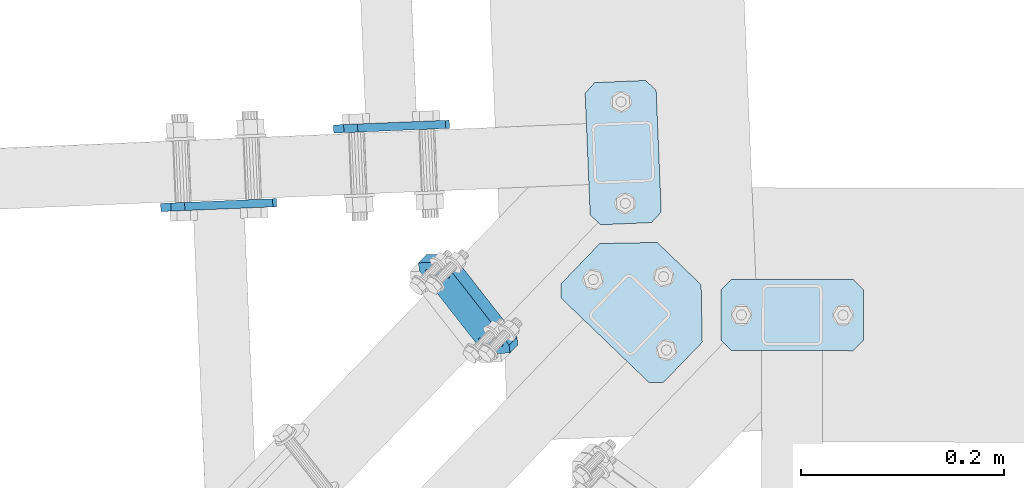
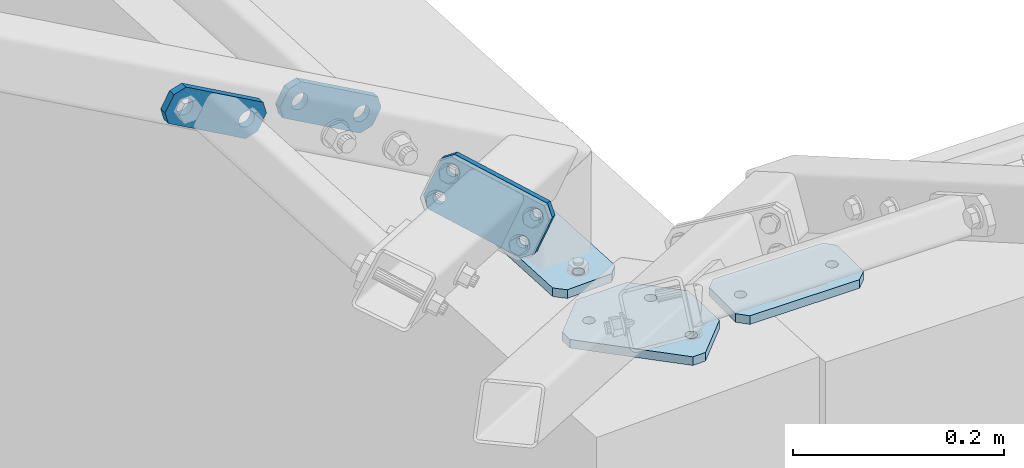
# One storey, part 31 of 288: 6 plates, 39 openings.
"""IFC2X3 building model written with IfcOpenShell, lengths in millimetres."""

from ifc_helpers import new_model, entity, si_unit, converted_unit, point, frame, frame_2d, origin, origin_with_axes, origin_2d_with_axis, place, context, project, spatial, polyline, circle_curve, line_curve, trimmed, segment, composite_curve, circle, outline, extrude, material, layer, layer_set, element, save


model = new_model("IFC2X3")

# Units and contexts
model_context = context("Model", 3, precision=1e-09, world=origin_with_axes())
ifc_project = project(units=[si_unit("LENGTHUNIT", "METRE", prefix="MILLI"), si_unit("AREAUNIT", "SQUARE_METRE"), si_unit("VOLUMEUNIT", "CUBIC_METRE"), converted_unit("PLANEANGLEUNIT", "DEGREE", entity("IfcPlaneAngleMeasure", 0.01745329), si_unit("PLANEANGLEUNIT", "RADIAN"), dimensions=[0, 0, 0, 0, 0, 0, 0])], contexts=[model_context])

# Site, building, storey
site_placement = place(None, origin_with_axes())
site = spatial("IfcSite", under=ifc_project, at=site_placement, Name="Remont ?wietlik?w nad MC w NCPP w Opolu", CompositionType="ELEMENT")
building_placement = place(site_placement, origin_with_axes())
building = spatial("IfcBuilding", under=site, at=building_placement, Name="Konstrukcja 1", CompositionType="ELEMENT")
storey_placement = place(building_placement, origin_with_axes())
storey = spatial("IfcBuildingStorey", under=building, at=storey_placement, Name="Default Storey", CompositionType="ELEMENT", Elevation=0.0)

# Plate, openings
ifc_material = material(Name="S235")
ifc_layer_1 = layer(ifc_material, 8.0)
ifc_layer_set_1 = layer_set([ifc_layer_1], Name="S235")
plate_1_placement = place(None, frame((1511.613304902, 2059.20461795, 249.653501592), z_axis=(-0.041662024, 0.999131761, 1.7472e-05), x_axis=(0.499566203, 0.020815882, 0.866025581)))
plate_1 = element("IfcPlate", 1, at=plate_1_placement, inside=storey, material=ifc_layer_set_1, Name="-", ObjectType="-", context=model_context, shape_type="SweptSolid", body=[
    extrude(outline(polyline([(0.0, 0.0), (40.0, 0.0), (40.0, 120.0), (0.0, 120.0), (0.0, 0.0)])), origin_with_axes(), (0.0, 0.0, 1.0), 8.0),
])
opening_1_placement = place(plate_1_placement, frame((0.0, 0.0, -0.01), z_axis=(0.0, 0.0, 1.0), x_axis=(1.0, 0.0, 0.0)))
element("IfcOpeningElement", 2, at=opening_1_placement, cuts=plate_1, ObjectType="Opening", context=model_context, shape_type="SweptSolid", body=[
    extrude(outline(composite_curve([segment(trimmed(line_curve((40.0, 0.0), (0.0, 1.0), 10.0), [point((40.0, 0.0))], [point((40.0, 10.0))], True, "CARTESIAN"), True, "CONTINUOUS"), segment(trimmed(circle_curve(frame_2d((30.0, 10.0), x_axis=(-1.0, 0.0)), 10.0), [point((40.0, 10.0))], [point((30.0, 0.0))], False, "CARTESIAN"), True, "CONTINUOUS"), segment(trimmed(line_curve((30.0, 0.0), (1.0, 0.0), 10.0), [point((30.0, 0.0))], [point((40.0, 0.0))], True, "CARTESIAN"), True, "CONTINUOUS")], self_intersect=False)), origin(), (0.0, 0.0, 1.0), 8.02),
])
opening_2_placement = place(plate_1_placement, frame((0.0, 0.0, -0.01), z_axis=(0.0, 0.0, 1.0), x_axis=(1.0, 0.0, 0.0)))
element("IfcOpeningElement", 3, at=opening_2_placement, cuts=plate_1, ObjectType="Opening", context=model_context, shape_type="SweptSolid", body=[
    extrude(outline(composite_curve([segment(trimmed(line_curve((0.0, 0.0), (1.0, 0.0), 10.0), [point((0.0, 0.0))], [point((10.0, 0.0))], True, "CARTESIAN"), True, "CONTINUOUS"), segment(trimmed(circle_curve(frame_2d((10.0, 10.0), x_axis=(-1.0, 0.0)), 10.0), [point((10.0, 0.0))], [point((0.0, 10.0))], False, "CARTESIAN"), True, "CONTINUOUS"), segment(trimmed(line_curve((0.0, 10.0), (0.0, -1.0), 10.0), [point((0.0, 10.0))], [point((0.0, 0.0))], True, "CARTESIAN"), True, "CONTINUOUS")], self_intersect=False)), origin(), (0.0, 0.0, 1.0), 8.02),
])
opening_3_placement = place(plate_1_placement, frame((0.0, 0.0, -0.01), z_axis=(0.0, 0.0, 1.0), x_axis=(1.0, 0.0, 0.0)))
element("IfcOpeningElement", 4, at=opening_3_placement, cuts=plate_1, ObjectType="Opening", context=model_context, shape_type="SweptSolid", body=[
    extrude(outline(composite_curve([segment(trimmed(line_curve((40.0, 120.0), (-1.0, 0.0), 10.0), [point((40.0, 120.0))], [point((30.0, 120.0))], True, "CARTESIAN"), True, "CONTINUOUS"), segment(trimmed(circle_curve(frame_2d((30.0, 110.0), x_axis=(-1.0, 0.0)), 10.0), [point((30.0, 120.0))], [point((40.0, 110.0))], False, "CARTESIAN"), True, "CONTINUOUS"), segment(trimmed(line_curve((40.0, 110.0), (0.0, 1.0), 10.0), [point((40.0, 110.0))], [point((40.0, 120.0))], True, "CARTESIAN"), True, "CONTINUOUS")], self_intersect=False)), origin(), (0.0, 0.0, 1.0), 8.02),
])
opening_4_placement = place(plate_1_placement, frame((0.0, 0.0, -0.01), z_axis=(0.0, 0.0, 1.0), x_axis=(1.0, 0.0, 0.0)))
element("IfcOpeningElement", 5, at=opening_4_placement, cuts=plate_1, ObjectType="Opening", context=model_context, shape_type="SweptSolid", body=[
    extrude(outline(composite_curve([segment(trimmed(line_curve((0.0, 120.0), (0.0, -1.0), 10.0), [point((0.0, 120.0))], [point((0.0, 110.0))], True, "CARTESIAN"), True, "CONTINUOUS"), segment(trimmed(circle_curve(frame_2d((10.0, 110.0), x_axis=(-1.0, 0.0)), 10.0), [point((0.0, 110.0))], [point((10.0, 120.0))], False, "CARTESIAN"), True, "CONTINUOUS"), segment(trimmed(line_curve((10.0, 120.0), (-1.0, 0.0), 10.0), [point((10.0, 120.0))], [point((0.0, 120.0))], True, "CARTESIAN"), True, "CONTINUOUS")], self_intersect=False)), origin(), (0.0, 0.0, 1.0), 8.02),
])
opening_5_placement = place(plate_1_placement, frame((20.000010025, 59.99999979, -0.499887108), z_axis=(-2.0054e-05, 4.2e-07, 1.0), x_axis=(0.0, -1.0, 4.2e-07)))
element("IfcOpeningElement", 6, at=opening_5_placement, cuts=plate_1, ObjectType="Opening", context=model_context, shape_type="SweptSolid", body=[
    extrude(circle(Radius=9.001, at=frame_2d((40.0, 0.0), x_axis=(1.0, 0.0))), origin(), (0.0, 0.0, 1.0), 9.000033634),
])
opening_6_placement = place(plate_1_placement, frame((20.000010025, 59.99999979, -0.499887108), z_axis=(-2.0054e-05, 4.2e-07, 1.0), x_axis=(0.0, -1.0, 4.2e-07)))
element("IfcOpeningElement", 7, at=opening_6_placement, cuts=plate_1, ObjectType="Opening", context=model_context, shape_type="SweptSolid", body=[
    extrude(circle(Radius=9.001, at=frame_2d((-40.0, 0.0), x_axis=(1.0, 0.0))), origin(), (0.0, 0.0, 1.0), 9.000033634),
])

plate_2_placement = place(None, frame((1341.495069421, 1982.048266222, 349.687014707), z_axis=(-0.041662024, 0.999131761, 1.7472e-05), x_axis=(0.499566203, 0.020815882, 0.866025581)))
plate_2 = element("IfcPlate", 8, at=plate_2_placement, inside=storey, material=ifc_layer_set_1, Name="-", ObjectType="-", context=model_context, shape_type="SweptSolid", body=[
    extrude(outline(polyline([(0.0, 0.0), (40.0, 0.0), (40.0, 120.0), (0.0, 120.0), (0.0, 0.0)])), origin_with_axes(), (0.0, 0.0, 1.0), 8.0),
])
opening_7_placement = place(plate_2_placement, frame((0.0, 0.0, -0.01), z_axis=(0.0, 0.0, 1.0), x_axis=(1.0, 0.0, 0.0)))
element("IfcOpeningElement", 9, at=opening_7_placement, cuts=plate_2, ObjectType="Opening", context=model_context, shape_type="SweptSolid", body=[
    extrude(outline(composite_curve([segment(trimmed(line_curve((40.0, 0.0), (0.0, 1.0), 10.0), [point((40.0, 0.0))], [point((40.0, 10.0))], True, "CARTESIAN"), True, "CONTINUOUS"), segment(trimmed(circle_curve(frame_2d((30.0, 10.0), x_axis=(-1.0, 0.0)), 10.0), [point((40.0, 10.0))], [point((30.0, 0.0))], False, "CARTESIAN"), True, "CONTINUOUS"), segment(trimmed(line_curve((30.0, 0.0), (1.0, 0.0), 10.0), [point((30.0, 0.0))], [point((40.0, 0.0))], True, "CARTESIAN"), True, "CONTINUOUS")], self_intersect=False)), origin(), (0.0, 0.0, 1.0), 8.02),
])
opening_8_placement = place(plate_2_placement, frame((0.0, 0.0, -0.01), z_axis=(0.0, 0.0, 1.0), x_axis=(1.0, 0.0, 0.0)))
element("IfcOpeningElement", 10, at=opening_8_placement, cuts=plate_2, ObjectType="Opening", context=model_context, shape_type="SweptSolid", body=[
    extrude(outline(composite_curve([segment(trimmed(line_curve((0.0, 0.0), (1.0, 0.0), 10.0), [point((0.0, 0.0))], [point((10.0, 0.0))], True, "CARTESIAN"), True, "CONTINUOUS"), segment(trimmed(circle_curve(frame_2d((10.0, 10.0), x_axis=(-1.0, 0.0)), 10.0), [point((10.0, 0.0))], [point((0.0, 10.0))], False, "CARTESIAN"), True, "CONTINUOUS"), segment(trimmed(line_curve((0.0, 10.0), (0.0, -1.0), 10.0), [point((0.0, 10.0))], [point((0.0, 0.0))], True, "CARTESIAN"), True, "CONTINUOUS")], self_intersect=False)), origin(), (0.0, 0.0, 1.0), 8.02),
])
opening_9_placement = place(plate_2_placement, frame((0.0, 0.0, -0.01), z_axis=(0.0, 0.0, 1.0), x_axis=(1.0, 0.0, 0.0)))
element("IfcOpeningElement", 11, at=opening_9_placement, cuts=plate_2, ObjectType="Opening", context=model_context, shape_type="SweptSolid", body=[
    extrude(outline(composite_curve([segment(trimmed(line_curve((40.0, 120.0), (-1.0, 0.0), 10.0), [point((40.0, 120.0))], [point((30.0, 120.0))], True, "CARTESIAN"), True, "CONTINUOUS"), segment(trimmed(circle_curve(frame_2d((30.0, 110.0), x_axis=(-1.0, 0.0)), 10.0), [point((30.0, 120.0))], [point((40.0, 110.0))], False, "CARTESIAN"), True, "CONTINUOUS"), segment(trimmed(line_curve((40.0, 110.0), (0.0, 1.0), 10.0), [point((40.0, 110.0))], [point((40.0, 120.0))], True, "CARTESIAN"), True, "CONTINUOUS")], self_intersect=False)), origin(), (0.0, 0.0, 1.0), 8.02),
])
opening_10_placement = place(plate_2_placement, frame((0.0, 0.0, -0.01), z_axis=(0.0, 0.0, 1.0), x_axis=(1.0, 0.0, 0.0)))
element("IfcOpeningElement", 12, at=opening_10_placement, cuts=plate_2, ObjectType="Opening", context=model_context, shape_type="SweptSolid", body=[
    extrude(outline(composite_curve([segment(trimmed(line_curve((0.0, 120.0), (0.0, -1.0), 10.0), [point((0.0, 120.0))], [point((0.0, 110.0))], True, "CARTESIAN"), True, "CONTINUOUS"), segment(trimmed(circle_curve(frame_2d((10.0, 110.0), x_axis=(-1.0, 0.0)), 10.0), [point((0.0, 110.0))], [point((10.0, 120.0))], False, "CARTESIAN"), True, "CONTINUOUS"), segment(trimmed(line_curve((10.0, 120.0), (-1.0, 0.0), 10.0), [point((10.0, 120.0))], [point((0.0, 120.0))], True, "CARTESIAN"), True, "CONTINUOUS")], self_intersect=False)), origin(), (0.0, 0.0, 1.0), 8.02),
])
opening_11_placement = place(plate_2_placement, frame((19.999829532, 29.001003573, 8.499866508), z_axis=(-2.0054e-05, 4.2e-07, 1.0), x_axis=(1.0, 0.0, 2.0054e-05)))
element("IfcOpeningElement", 13, at=opening_11_placement, cuts=plate_2, ObjectType="Opening", context=model_context, shape_type="SweptSolid", body=[
    extrude(circle(Radius=9.001, at=frame_2d((-5e-09, -9.001), x_axis=(1.0, 0.0))), origin(), (0.0, 0.0, -1.0), 9.000033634),
])
opening_12_placement = place(plate_2_placement, frame((19.999829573, 109.001003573, 8.499832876), z_axis=(-2.0054e-05, 4.2e-07, 1.0), x_axis=(1.0, 0.0, 2.0054e-05)))
element("IfcOpeningElement", 14, at=opening_12_placement, cuts=plate_2, ObjectType="Opening", context=model_context, shape_type="SweptSolid", body=[
    extrude(circle(Radius=9.001, at=frame_2d((-5e-09, -9.001), x_axis=(1.0, 0.0))), origin(), (0.0, 0.0, -1.0), 9.000033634),
])

ifc_layer_2 = layer(ifc_material, 10.0)
ifc_layer_set_2 = layer_set([ifc_layer_2], Name="S235")
plate_3_placement = place(None, frame((2037.715049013, 1915.266022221, 10.000000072), z_axis=(0.0, 0.0, -1.0), x_axis=(-0.002261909, -0.999997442, 0.0)))
plate_3 = element("IfcPlate", 15, at=plate_3_placement, inside=storey, material=ifc_layer_set_2, Name="Baseplate", ObjectType="Baseplate", context=model_context, shape_type="SweptSolid", body=[
    extrude(outline(polyline([(0.0, 0.0), (70.0, 0.0), (70.0, 140.0), (0.0, 140.0), (0.0, 0.0)])), origin_with_axes(), (0.0, 0.0, 1.0), 10.0),
])
opening_13_placement = place(plate_3_placement, frame((0.0, 0.0, -0.01), z_axis=(0.0, 0.0, 1.0), x_axis=(1.0, 0.0, 0.0)))
element("IfcOpeningElement", 16, at=opening_13_placement, cuts=plate_3, ObjectType="Opening", context=model_context, shape_type="SweptSolid", body=[
    extrude(outline(composite_curve([segment(trimmed(line_curve((0.0, 140.0), (0.0, -1.0), 10.0), [point((0.0, 140.0))], [point((0.0, 130.0))], True, "CARTESIAN"), True, "CONTINUOUS"), segment(trimmed(circle_curve(frame_2d((10.0, 130.0), x_axis=(-1.0, 0.0)), 10.0), [point((0.0, 130.0))], [point((10.0, 140.0))], False, "CARTESIAN"), True, "CONTINUOUS"), segment(trimmed(line_curve((10.0, 140.0), (-1.0, 0.0), 10.0), [point((10.0, 140.0))], [point((0.0, 140.0))], True, "CARTESIAN"), True, "CONTINUOUS")], self_intersect=False)), origin(), (0.0, 0.0, 1.0), 10.02),
])
opening_14_placement = place(plate_3_placement, frame((0.0, 0.0, -0.01), z_axis=(0.0, 0.0, 1.0), x_axis=(1.0, 0.0, 0.0)))
element("IfcOpeningElement", 17, at=opening_14_placement, cuts=plate_3, ObjectType="Opening", context=model_context, shape_type="SweptSolid", body=[
    extrude(outline(composite_curve([segment(trimmed(line_curve((70.0, 140.0), (-1.0, 0.0), 10.0), [point((70.0, 140.0))], [point((60.0, 140.0))], True, "CARTESIAN"), True, "CONTINUOUS"), segment(trimmed(circle_curve(frame_2d((60.0, 130.0), x_axis=(-1.0, 0.0)), 10.0), [point((60.0, 140.0))], [point((70.0, 130.0))], False, "CARTESIAN"), True, "CONTINUOUS"), segment(trimmed(line_curve((70.0, 130.0), (0.0, 1.0), 10.0), [point((70.0, 130.0))], [point((70.0, 140.0))], True, "CARTESIAN"), True, "CONTINUOUS")], self_intersect=False)), origin(), (0.0, 0.0, 1.0), 10.02),
])
opening_15_placement = place(plate_3_placement, frame((0.0, 0.0, -0.01), z_axis=(0.0, 0.0, 1.0), x_axis=(1.0, 0.0, 0.0)))
element("IfcOpeningElement", 18, at=opening_15_placement, cuts=plate_3, ObjectType="Opening", context=model_context, shape_type="SweptSolid", body=[
    extrude(outline(composite_curve([segment(trimmed(line_curve((0.0, 0.0), (1.0, 0.0), 10.0), [point((0.0, 0.0))], [point((10.0, 0.0))], True, "CARTESIAN"), True, "CONTINUOUS"), segment(trimmed(circle_curve(frame_2d((10.0, 10.0), x_axis=(-1.0, 0.0)), 10.0), [point((10.0, 0.0))], [point((0.0, 10.0))], False, "CARTESIAN"), True, "CONTINUOUS"), segment(trimmed(line_curve((0.0, 10.0), (0.0, -1.0), 10.0), [point((0.0, 10.0))], [point((0.0, 0.0))], True, "CARTESIAN"), True, "CONTINUOUS")], self_intersect=False)), origin(), (0.0, 0.0, 1.0), 10.02),
])
opening_16_placement = place(plate_3_placement, frame((0.0, 0.0, -0.01), z_axis=(0.0, 0.0, 1.0), x_axis=(1.0, 0.0, 0.0)))
element("IfcOpeningElement", 19, at=opening_16_placement, cuts=plate_3, ObjectType="Opening", context=model_context, shape_type="SweptSolid", body=[
    extrude(outline(composite_curve([segment(trimmed(line_curve((70.0, 0.0), (0.0, 1.0), 10.0), [point((70.0, 0.0))], [point((70.0, 10.0))], True, "CARTESIAN"), True, "CONTINUOUS"), segment(trimmed(circle_curve(frame_2d((60.0, 10.0), x_axis=(-1.0, 0.0)), 10.0), [point((70.0, 10.0))], [point((60.0, 0.0))], False, "CARTESIAN"), True, "CONTINUOUS"), segment(trimmed(line_curve((60.0, 0.0), (1.0, 0.0), 10.0), [point((60.0, 0.0))], [point((70.0, 0.0))], True, "CARTESIAN"), True, "CONTINUOUS")], self_intersect=False)), origin(), (0.0, 0.0, 1.0), 10.02),
])
opening_17_placement = place(plate_3_placement, frame((35.0, 20.0, 10.5), z_axis=(0.0, 0.0, -1.0), x_axis=(1.0, 0.0, 0.0)))
element("IfcOpeningElement", 20, at=opening_17_placement, cuts=plate_3, ObjectType="Opening", context=model_context, shape_type="SweptSolid", body=[
    extrude(circle(Radius=6.001, at=origin_2d_with_axis()), origin(), (0.0, 0.0, 1.0), 11.0),
])
opening_18_placement = place(plate_3_placement, frame((35.0, 120.0, 10.5), z_axis=(0.0, 0.0, -1.0), x_axis=(1.0, 0.0, 0.0)))
element("IfcOpeningElement", 21, at=opening_18_placement, cuts=plate_3, ObjectType="Opening", context=model_context, shape_type="SweptSolid", body=[
    extrude(circle(Radius=6.001, at=origin_2d_with_axis()), origin(), (0.0, 0.0, 1.0), 11.0),
])

plate_4_placement = place(None, frame((1839.186047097, 1971.778771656, 9.999999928), z_axis=(0.0, 0.0, -1.0), x_axis=(-0.999131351, -0.041671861, 0.0)))
plate_4 = element("IfcPlate", 22, at=plate_4_placement, inside=storey, material=ifc_layer_set_2, Name="Baseplate", ObjectType="Baseplate", context=model_context, shape_type="SweptSolid", body=[
    extrude(outline(polyline([(0.0, 0.0), (70.0, 0.0), (70.0, 140.0), (0.0, 140.0), (0.0, 0.0)])), origin_with_axes(), (0.0, 0.0, 1.0), 10.0),
])
opening_19_placement = place(plate_4_placement, frame((0.0, 0.0, -0.01), z_axis=(0.0, 0.0, 1.0), x_axis=(1.0, 0.0, 0.0)))
element("IfcOpeningElement", 23, at=opening_19_placement, cuts=plate_4, ObjectType="Opening", context=model_context, shape_type="SweptSolid", body=[
    extrude(outline(composite_curve([segment(trimmed(line_curve((0.0, 140.0), (0.0, -1.0), 10.0), [point((0.0, 140.0))], [point((0.0, 130.0))], True, "CARTESIAN"), True, "CONTINUOUS"), segment(trimmed(circle_curve(frame_2d((10.0, 130.0), x_axis=(-1.0, 0.0)), 10.0), [point((0.0, 130.0))], [point((10.0, 140.0))], False, "CARTESIAN"), True, "CONTINUOUS"), segment(trimmed(line_curve((10.0, 140.0), (-1.0, 0.0), 10.0), [point((10.0, 140.0))], [point((0.0, 140.0))], True, "CARTESIAN"), True, "CONTINUOUS")], self_intersect=False)), origin(), (0.0, 0.0, 1.0), 10.02),
])
opening_20_placement = place(plate_4_placement, frame((0.0, 0.0, -0.01), z_axis=(0.0, 0.0, 1.0), x_axis=(1.0, 0.0, 0.0)))
element("IfcOpeningElement", 24, at=opening_20_placement, cuts=plate_4, ObjectType="Opening", context=model_context, shape_type="SweptSolid", body=[
    extrude(outline(composite_curve([segment(trimmed(line_curve((70.0, 140.0), (-1.0, 0.0), 10.0), [point((70.0, 140.0))], [point((60.0, 140.0))], True, "CARTESIAN"), True, "CONTINUOUS"), segment(trimmed(circle_curve(frame_2d((60.0, 130.0), x_axis=(-1.0, 0.0)), 10.0), [point((60.0, 140.0))], [point((70.0, 130.0))], False, "CARTESIAN"), True, "CONTINUOUS"), segment(trimmed(line_curve((70.0, 130.0), (0.0, 1.0), 10.0), [point((70.0, 130.0))], [point((70.0, 140.0))], True, "CARTESIAN"), True, "CONTINUOUS")], self_intersect=False)), origin(), (0.0, 0.0, 1.0), 10.02),
])
opening_21_placement = place(plate_4_placement, frame((0.0, 0.0, -0.01), z_axis=(0.0, 0.0, 1.0), x_axis=(1.0, 0.0, 0.0)))
element("IfcOpeningElement", 25, at=opening_21_placement, cuts=plate_4, ObjectType="Opening", context=model_context, shape_type="SweptSolid", body=[
    extrude(outline(composite_curve([segment(trimmed(line_curve((0.0, 0.0), (1.0, 0.0), 10.0), [point((0.0, 0.0))], [point((10.0, 0.0))], True, "CARTESIAN"), True, "CONTINUOUS"), segment(trimmed(circle_curve(frame_2d((10.0, 10.0), x_axis=(-1.0, 0.0)), 10.0), [point((10.0, 0.0))], [point((0.0, 10.0))], False, "CARTESIAN"), True, "CONTINUOUS"), segment(trimmed(line_curve((0.0, 10.0), (0.0, -1.0), 10.0), [point((0.0, 10.0))], [point((0.0, 0.0))], True, "CARTESIAN"), True, "CONTINUOUS")], self_intersect=False)), origin(), (0.0, 0.0, 1.0), 10.02),
])
opening_22_placement = place(plate_4_placement, frame((0.0, 0.0, -0.01), z_axis=(0.0, 0.0, 1.0), x_axis=(1.0, 0.0, 0.0)))
element("IfcOpeningElement", 26, at=opening_22_placement, cuts=plate_4, ObjectType="Opening", context=model_context, shape_type="SweptSolid", body=[
    extrude(outline(composite_curve([segment(trimmed(line_curve((70.0, 0.0), (0.0, 1.0), 10.0), [point((70.0, 0.0))], [point((70.0, 10.0))], True, "CARTESIAN"), True, "CONTINUOUS"), segment(trimmed(circle_curve(frame_2d((60.0, 10.0), x_axis=(-1.0, 0.0)), 10.0), [point((70.0, 10.0))], [point((60.0, 0.0))], False, "CARTESIAN"), True, "CONTINUOUS"), segment(trimmed(line_curve((60.0, 0.0), (1.0, 0.0), 10.0), [point((60.0, 0.0))], [point((70.0, 0.0))], True, "CARTESIAN"), True, "CONTINUOUS")], self_intersect=False)), origin(), (0.0, 0.0, 1.0), 10.02),
])
opening_23_placement = place(plate_4_placement, frame((35.0, 20.0, 10.5), z_axis=(0.0, 0.0, -1.0), x_axis=(1.0, 0.0, 0.0)))
element("IfcOpeningElement", 27, at=opening_23_placement, cuts=plate_4, ObjectType="Opening", context=model_context, shape_type="SweptSolid", body=[
    extrude(circle(Radius=6.001, at=origin_2d_with_axis()), origin(), (0.0, 0.0, 1.0), 11.0),
])
opening_24_placement = place(plate_4_placement, frame((35.0, 120.0, 10.5), z_axis=(0.0, 0.0, -1.0), x_axis=(1.0, 0.0, 0.0)))
element("IfcOpeningElement", 28, at=opening_24_placement, cuts=plate_4, ObjectType="Opening", context=model_context, shape_type="SweptSolid", body=[
    extrude(circle(Radius=6.001, at=origin_2d_with_axis()), origin(), (0.0, 0.0, 1.0), 11.0),
])

plate_5_placement = place(None, frame((1834.087818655, 1806.89888617, 9.999998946), z_axis=(0.0, 0.0, -1.0), x_axis=(-0.720915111, 0.693023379, 0.0)))
plate_5 = element("IfcPlate", 29, at=plate_5_placement, inside=storey, material=ifc_layer_set_2, Name="Baseplate", ObjectType="Baseplate", context=model_context, shape_type="SweptSolid", body=[
    extrude(outline(polyline([(0.0, 0.0), (140.0, 0.0), (140.0, 105.0), (0.0, 105.0), (0.0, 0.0)])), origin_with_axes(), (0.0, 0.0, 1.0), 10.0),
])
opening_25_placement = place(plate_5_placement, frame((0.0, 0.0, -0.01), z_axis=(0.0, 0.0, 1.0), x_axis=(1.0, 0.0, 0.0)))
element("IfcOpeningElement", 30, at=opening_25_placement, cuts=plate_5, ObjectType="Opening", context=model_context, shape_type="SweptSolid", body=[
    extrude(outline(composite_curve([segment(trimmed(line_curve((0.0, 0.0), (1.0, 0.0), 10.0), [point((0.0, 0.0))], [point((10.0, 0.0))], True, "CARTESIAN"), True, "CONTINUOUS"), segment(trimmed(circle_curve(frame_2d((10.0, 10.0), x_axis=(-1.0, 0.0)), 10.0), [point((10.0, 0.0))], [point((0.0, 10.0))], False, "CARTESIAN"), True, "CONTINUOUS"), segment(trimmed(line_curve((0.0, 10.0), (0.0, -1.0), 10.0), [point((0.0, 10.0))], [point((0.0, 0.0))], True, "CARTESIAN"), True, "CONTINUOUS")], self_intersect=False)), origin(), (0.0, 0.0, 1.0), 10.02),
])
opening_26_placement = place(plate_5_placement, frame((0.0, 0.0, -0.01), z_axis=(0.0, 0.0, 1.0), x_axis=(1.0, 0.0, 0.0)))
element("IfcOpeningElement", 31, at=opening_26_placement, cuts=plate_5, ObjectType="Opening", context=model_context, shape_type="SweptSolid", body=[
    extrude(outline(composite_curve([segment(trimmed(line_curve((140.0, 0.0), (0.0, 1.0), 10.0), [point((140.0, 0.0))], [point((140.0, 10.0))], True, "CARTESIAN"), True, "CONTINUOUS"), segment(trimmed(circle_curve(frame_2d((130.0, 10.0), x_axis=(-1.0, 0.0)), 10.0), [point((140.0, 10.0))], [point((130.0, 0.0))], False, "CARTESIAN"), True, "CONTINUOUS"), segment(trimmed(line_curve((130.0, 0.0), (1.0, 0.0), 10.0), [point((130.0, 0.0))], [point((140.0, 0.0))], True, "CARTESIAN"), True, "CONTINUOUS")], self_intersect=False)), origin(), (0.0, 0.0, 1.0), 10.02),
])
opening_27_placement = place(plate_5_placement, frame((0.0, 0.0, -0.01), z_axis=(0.0, 0.0, 1.0), x_axis=(1.0, 0.0, 0.0)))
element("IfcOpeningElement", 32, at=opening_27_placement, cuts=plate_5, ObjectType="Opening", context=model_context, shape_type="SweptSolid", body=[
    extrude(outline(polyline([(140.0, 105.0), (100.0, 105.0), (140.0, 65.0), (140.0, 105.0)])), origin(), (0.0, 0.0, 1.0), 10.02),
])
opening_28_placement = place(plate_5_placement, frame((0.0, 0.0, -0.01), z_axis=(0.0, 0.0, 1.0), x_axis=(1.0, 0.0, 0.0)))
element("IfcOpeningElement", 33, at=opening_28_placement, cuts=plate_5, ObjectType="Opening", context=model_context, shape_type="SweptSolid", body=[
    extrude(outline(polyline([(0.0, 105.0), (0.0, 65.0), (40.0, 105.0), (0.0, 105.0)])), origin(), (0.0, 0.0, 1.0), 10.02),
])
opening_29_placement = place(plate_5_placement, frame((72.121673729, 85.122173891, 10.499999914), z_axis=(0.0, 0.0, -1.0), x_axis=(0.0, 1.0, 0.0)))
element("IfcOpeningElement", 34, at=opening_29_placement, cuts=plate_5, ObjectType="Opening", context=model_context, shape_type="SweptSolid", body=[
    extrude(circle(Radius=6.001, at=origin_2d_with_axis()), origin(), (0.0, 0.0, 1.0), 11.0),
])
opening_30_placement = place(plate_5_placement, frame((120.0, 35.0, 10.5), z_axis=(0.0, 0.0, -1.0), x_axis=(1.0, 0.0, 0.0)))
element("IfcOpeningElement", 35, at=opening_30_placement, cuts=plate_5, ObjectType="Opening", context=model_context, shape_type="SweptSolid", body=[
    extrude(circle(Radius=6.001, at=origin_2d_with_axis()), origin(), (0.0, 0.0, 1.0), 11.0),
])
opening_31_placement = place(plate_5_placement, frame((20.0, 35.0, 10.5), z_axis=(0.0, 0.0, -1.0), x_axis=(1.0, 0.0, 0.0)))
element("IfcOpeningElement", 36, at=opening_31_placement, cuts=plate_5, ObjectType="Opening", context=model_context, shape_type="SweptSolid", body=[
    extrude(circle(Radius=6.001, at=origin_2d_with_axis()), origin(), (0.0, 0.0, 1.0), 11.0),
])

ifc_layer_3 = layer(ifc_material, 12.0)
ifc_layer_set_3 = layer_set([ifc_layer_3], Name="S235")
plate_6_placement = place(None, frame((1594.871832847, 1931.567216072, 196.673055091), z_axis=(0.639589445, 0.665373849, -0.384971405), x_axis=(0.499581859, 0.020836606, 0.866016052)))
plate_6 = element("IfcPlate", 37, at=plate_6_placement, inside=storey, material=ifc_layer_set_3, Name="Endplate#1", ObjectType="Endplate#1", context=model_context, shape_type="SweptSolid", body=[
    extrude(outline(polyline([(0.0, 0.0), (60.0, 0.0), (60.0, 120.0), (0.0, 120.0), (0.0, 0.0)])), origin_with_axes(), (0.0, 0.0, 1.0), 12.0),
])
opening_32_placement = place(plate_6_placement, frame((0.0, 0.0, -0.01), z_axis=(0.0, 0.0, 1.0), x_axis=(1.0, 0.0, 0.0)))
element("IfcOpeningElement", 38, at=opening_32_placement, cuts=plate_6, ObjectType="Opening", context=model_context, shape_type="SweptSolid", body=[
    extrude(outline(composite_curve([segment(trimmed(line_curve((60.0, 120.0), (-1.0, 0.0), 10.0), [point((60.0, 120.0))], [point((50.0, 120.0))], True, "CARTESIAN"), True, "CONTINUOUS"), segment(trimmed(circle_curve(frame_2d((50.0, 110.0), x_axis=(-1.0, 0.0)), 10.0), [point((50.0, 120.0))], [point((60.0, 110.0))], False, "CARTESIAN"), True, "CONTINUOUS"), segment(trimmed(line_curve((60.0, 110.0), (0.0, 1.0), 10.0), [point((60.0, 110.0))], [point((60.0, 120.0))], True, "CARTESIAN"), True, "CONTINUOUS")], self_intersect=False)), origin(), (0.0, 0.0, 1.0), 12.02),
])
opening_33_placement = place(plate_6_placement, frame((0.0, 0.0, -0.01), z_axis=(0.0, 0.0, 1.0), x_axis=(1.0, 0.0, 0.0)))
element("IfcOpeningElement", 39, at=opening_33_placement, cuts=plate_6, ObjectType="Opening", context=model_context, shape_type="SweptSolid", body=[
    extrude(outline(composite_curve([segment(trimmed(line_curve((0.0, 120.0), (0.0, -1.0), 10.0), [point((0.0, 120.0))], [point((0.0, 110.0))], True, "CARTESIAN"), True, "CONTINUOUS"), segment(trimmed(circle_curve(frame_2d((10.0, 110.0), x_axis=(-1.0, 0.0)), 10.0), [point((0.0, 110.0))], [point((10.0, 120.0))], False, "CARTESIAN"), True, "CONTINUOUS"), segment(trimmed(line_curve((10.0, 120.0), (-1.0, 0.0), 10.0), [point((10.0, 120.0))], [point((0.0, 120.0))], True, "CARTESIAN"), True, "CONTINUOUS")], self_intersect=False)), origin(), (0.0, 0.0, 1.0), 12.02),
])
opening_34_placement = place(plate_6_placement, frame((0.0, 0.0, -0.01), z_axis=(0.0, 0.0, 1.0), x_axis=(1.0, 0.0, 0.0)))
element("IfcOpeningElement", 40, at=opening_34_placement, cuts=plate_6, ObjectType="Opening", context=model_context, shape_type="SweptSolid", body=[
    extrude(outline(composite_curve([segment(trimmed(line_curve((0.0, 0.0), (1.0, 0.0), 10.0), [point((0.0, 0.0))], [point((10.0, 0.0))], True, "CARTESIAN"), True, "CONTINUOUS"), segment(trimmed(circle_curve(frame_2d((10.0, 10.0), x_axis=(-1.0, 0.0)), 10.0), [point((10.0, 0.0))], [point((0.0, 10.0))], False, "CARTESIAN"), True, "CONTINUOUS"), segment(trimmed(line_curve((0.0, 10.0), (0.0, -1.0), 10.0), [point((0.0, 10.0))], [point((0.0, 0.0))], True, "CARTESIAN"), True, "CONTINUOUS")], self_intersect=False)), origin(), (0.0, 0.0, 1.0), 12.02),
])
opening_35_placement = place(plate_6_placement, frame((45.0, 60.0, 12.5), z_axis=(0.0, 0.0, -1.0), x_axis=(1.0, 0.0, 0.0)))
element("IfcOpeningElement", 41, at=opening_35_placement, cuts=plate_6, ObjectType="Opening", context=model_context, shape_type="SweptSolid", body=[
    extrude(circle(Radius=6.001, at=frame_2d((0.0, 45.0), x_axis=(1.0, 0.0))), origin(), (0.0, 0.0, 1.0), 13.0),
])
opening_36_placement = place(plate_6_placement, frame((45.0, 60.0, 12.5), z_axis=(0.0, 0.0, -1.0), x_axis=(1.0, 0.0, 0.0)))
element("IfcOpeningElement", 42, at=opening_36_placement, cuts=plate_6, ObjectType="Opening", context=model_context, shape_type="SweptSolid", body=[
    extrude(circle(Radius=6.001, at=frame_2d((0.0, -45.0), x_axis=(1.0, 0.0))), origin(), (0.0, 0.0, 1.0), 13.0),
])
opening_37_placement = place(plate_6_placement, frame((15.0, 60.0, 12.5), z_axis=(0.0, 0.0, -1.0), x_axis=(1.0, 0.0, 0.0)))
element("IfcOpeningElement", 43, at=opening_37_placement, cuts=plate_6, ObjectType="Opening", context=model_context, shape_type="SweptSolid", body=[
    extrude(circle(Radius=6.001, at=frame_2d((0.0, 45.0), x_axis=(1.0, 0.0))), origin(), (0.0, 0.0, 1.0), 13.0),
])
opening_38_placement = place(plate_6_placement, frame((15.0, 60.0, 12.5), z_axis=(0.0, 0.0, -1.0), x_axis=(1.0, 0.0, 0.0)))
element("IfcOpeningElement", 44, at=opening_38_placement, cuts=plate_6, ObjectType="Opening", context=model_context, shape_type="SweptSolid", body=[
    extrude(circle(Radius=6.001, at=frame_2d((0.0, -45.0), x_axis=(1.0, 0.0))), origin(), (0.0, 0.0, 1.0), 13.0),
])
opening_39_placement = place(plate_6_placement, frame((0.0, 0.0, -0.01), z_axis=(0.0, 0.0, 1.0), x_axis=(1.0, 0.0, 0.0)))
element("IfcOpeningElement", 45, at=opening_39_placement, cuts=plate_6, ObjectType="Opening", context=model_context, shape_type="SweptSolid", body=[
    extrude(outline(composite_curve([segment(trimmed(line_curve((60.0, 0.0), (0.0, 1.0), 10.0), [point((60.0, 0.0))], [point((60.0, 10.0))], True, "CARTESIAN"), True, "CONTINUOUS"), segment(trimmed(circle_curve(frame_2d((50.0, 10.0), x_axis=(-1.0, 0.0)), 10.0), [point((60.0, 10.0))], [point((50.0, 0.0))], False, "CARTESIAN"), True, "CONTINUOUS"), segment(trimmed(line_curve((50.0, 0.0), (1.0, 0.0), 10.0), [point((50.0, 0.0))], [point((60.0, 0.0))], True, "CARTESIAN"), True, "CONTINUOUS")], self_intersect=False)), origin(), (0.0, 0.0, 1.0), 12.02),
])

save(model, "model.ifc")
